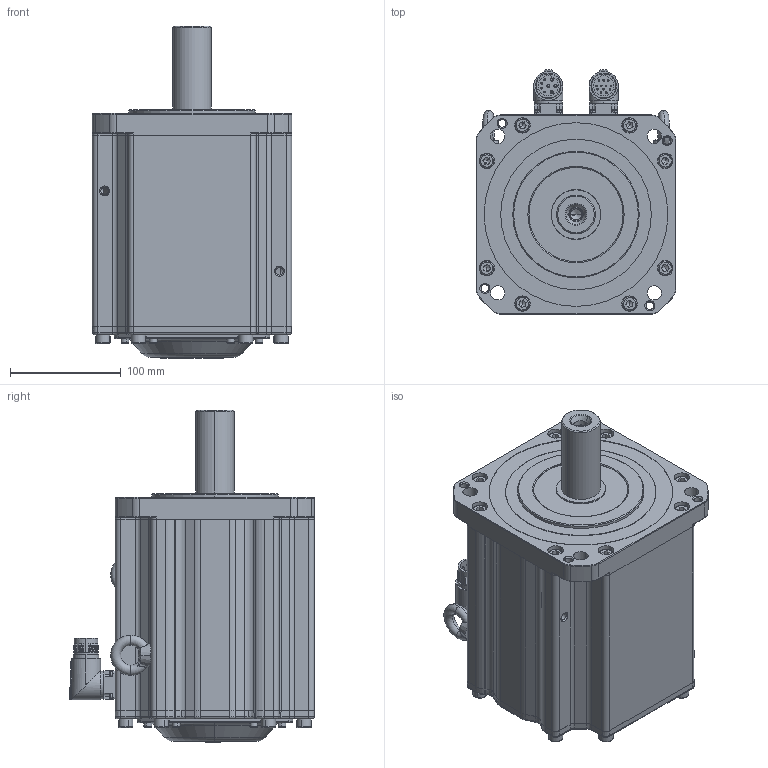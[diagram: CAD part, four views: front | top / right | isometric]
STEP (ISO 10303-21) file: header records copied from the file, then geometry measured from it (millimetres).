
FILE_DESCRIPTION (( 'STEP AP203' ), '1' );
FILE_NAME ('MC20-180-3M20-N402-1¡õPL-NNNN.STEP', '2025-07-30T13:20:02', ( '' ), ( '' ), 'SwSTEP 2.0', 'SolidWorks 2014', '' );
FILE_SCHEMA (( 'CONFIG_CONTROL_DESIGN' ));
Length unit declared in the file: millimetre
Products named in the file (1): MC20-180-3M20-N402-1¡õPL-NNNN
Bounding box: 180 x 221.35 x 299.95 mm (x, y, z)
Volume: 7859957.3 mm3; surface area: 500391.9 mm2
Topology: 40 solids, 42 shells, 2194 faces, 5079 edges, 3029 vertices
Faces by surface type: plane 879, cylinder 578, cone 482, torus 208, bspline 47
Entity records: 64156 total; most frequent: CARTESIAN_POINT 14091, DIRECTION 10995, ORIENTED_EDGE 9938, EDGE_CURVE 4969, AXIS2_PLACEMENT_3D 4263, VERTEX_POINT 3029, LINE 2469, VECTOR 2469
